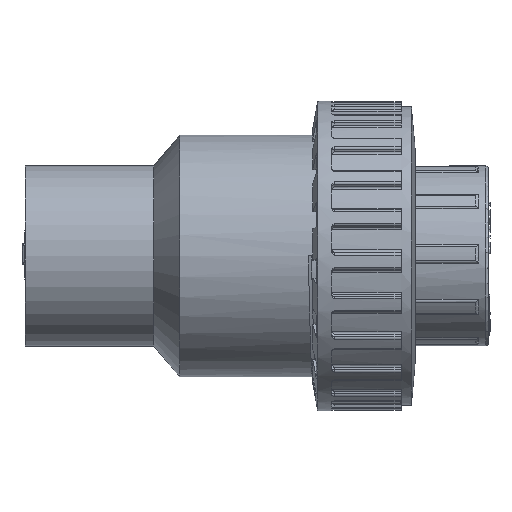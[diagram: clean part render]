
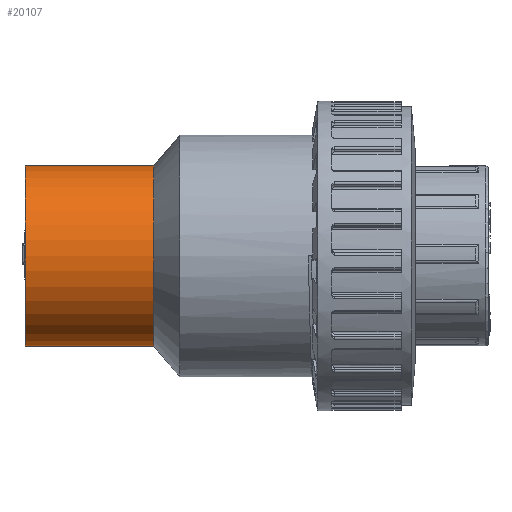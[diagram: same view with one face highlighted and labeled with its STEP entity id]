
A CAD part, top view. The second image highlights one B-rep face of the part: STEP entity #20107.
In plain terms, the highlighted cylindrical face has radius 17.5 mm (diameter 35 mm), a full revolution.
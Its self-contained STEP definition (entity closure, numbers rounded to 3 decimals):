
#409=FACE_BOUND('',#3313,.T.);
#1109=CIRCLE('',#21483,17.5);
#1110=CIRCLE('',#21484,17.5);
#1848=CYLINDRICAL_SURFACE('',#21482,17.5);
#2129=FACE_OUTER_BOUND('',#3312,.T.);
#3312=EDGE_LOOP('',(#13681));
#3313=EDGE_LOOP('',(#13682));
#8424=VERTEX_POINT('',#29597);
#8425=VERTEX_POINT('',#29599);
#10517=EDGE_CURVE('',#8424,#8424,#1109,.T.);
#10518=EDGE_CURVE('',#8425,#8425,#1110,.T.);
#13681=ORIENTED_EDGE('',*,*,#10517,.F.);
#13682=ORIENTED_EDGE('',*,*,#10518,.T.);
#20107=ADVANCED_FACE('',(#2129,#409),#1848,.T.);
#21482=AXIS2_PLACEMENT_3D('',#29596,#23394,#23395);
#21483=AXIS2_PLACEMENT_3D('',#29598,#23396,#23397);
#21484=AXIS2_PLACEMENT_3D('',#29600,#23398,#23399);
#23394=DIRECTION('center_axis',(1.,0.,0.));
#23395=DIRECTION('ref_axis',(0.,1.,0.));
#23396=DIRECTION('center_axis',(1.,0.,0.));
#23397=DIRECTION('ref_axis',(0.,0.,-1.));
#23398=DIRECTION('center_axis',(1.,0.,0.));
#23399=DIRECTION('ref_axis',(0.,0.,-1.));
#29596=CARTESIAN_POINT('Origin',(-85.772,0.,0.));
#29597=CARTESIAN_POINT('',(-73.272,17.5,0.));
#29598=CARTESIAN_POINT('Origin',(-73.272,0.,0.));
#29599=CARTESIAN_POINT('',(-98.272,17.5,0.));
#29600=CARTESIAN_POINT('Origin',(-98.272,0.,0.));
